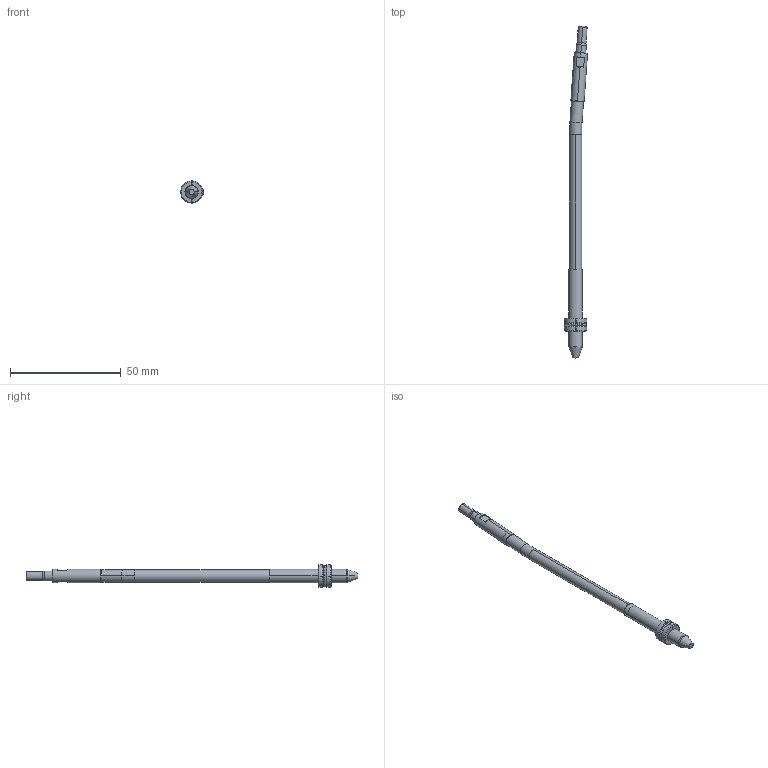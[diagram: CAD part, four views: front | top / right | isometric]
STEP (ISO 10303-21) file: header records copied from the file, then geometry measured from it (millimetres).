
FILE_DESCRIPTION (( 'STEP AP214' ), '1' );
FILE_NAME ('WP060060-INJ 4°.STEP', '2021-03-19T15:17:06', ( '' ), ( '' ), 'SwSTEP 2.0', 'SolidWorks 2019', '' );
FILE_SCHEMA (( 'AUTOMOTIVE_DESIGN' ));
Length unit declared in the file: millimetre
Products named in the file (6): WEB-007-9WP060060-F_WP060060-F-OFF 4ø; WEB-006-9WP060030-6; WEB-001-9WP060030-1; WP060060-INJ 4°; WEB-008-JUNTA-JT7X1X9; WEB-002-9WP060030-2
Assembly tree (5 placements, depth 2):
  WP060060-INJ 4°
    WEB-001-9WP060030-1
    WEB-007-9WP060060-F_WP060060-F-OFF 4ø
    WEB-002-9WP060030-2
    WEB-006-9WP060030-6
    WEB-008-JUNTA-JT7X1X9
Bounding box: 10.38 x 149.81 x 9.99 mm (x, y, z)
Volume: 3873.8 mm3; surface area: 3434.3 mm2
Topology: 6 solids, 6 shells, 112 faces, 262 edges, 164 vertices
Faces by surface type: cylinder 36, cone 28, plane 28, torus 20
Entity records: 3723 total; most frequent: CARTESIAN_POINT 714, DIRECTION 598, ORIENTED_EDGE 524, EDGE_CURVE 262, AXIS2_PLACEMENT_3D 256, VERTEX_POINT 164, CIRCLE 136, EDGE_LOOP 116
